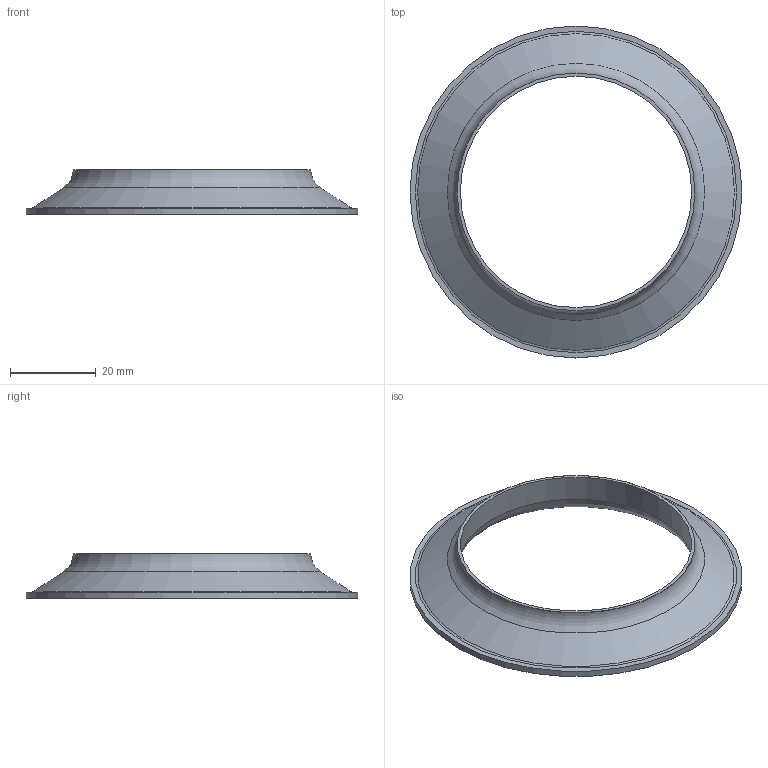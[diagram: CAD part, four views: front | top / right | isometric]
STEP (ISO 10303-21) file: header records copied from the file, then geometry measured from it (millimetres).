
FILE_DESCRIPTION( ('This file contains a STEP AP42 implementation' ,'as created by ZW3D STEP Interface translator.') ,'2;1' );
FILE_NAME( 'KM-54.stp' ,'26 511.1145 3', (''), ('ZWCAD Software Co.'), 'Version 1.0', 'ZW3D to STEP translator', '' );
FILE_SCHEMA(('AP242_MANAGED_MODEL_BASED_3D_ENGINEERING_MIM_LF { 1 0 10303 442 1 1 4 }'));
Length unit declared in the file: millimetre
Products named in the file (1): 0
Bounding box: 77.5 x 77.5 x 10.5 mm (x, y, z)
Volume: 9447.4 mm3; surface area: 7460.5 mm2
Topology: 1 solids, 1 shells, 10 faces, 17 edges, 10 vertices
Faces by surface type: plane 3, torus 3, cylinder 2, cone 2
Full cylindrical faces by diameter (mm): 55.5 x1, 77.5 x1
Entity records: 276 total; most frequent: DIRECTION 52, CARTESIAN_POINT 38, ORIENTED_EDGE 34, AXIS2_PLACEMENT_3D 24, EDGE_CURVE 17, CIRCLE 13, EDGE_LOOP 13, VERTEX_POINT 10
